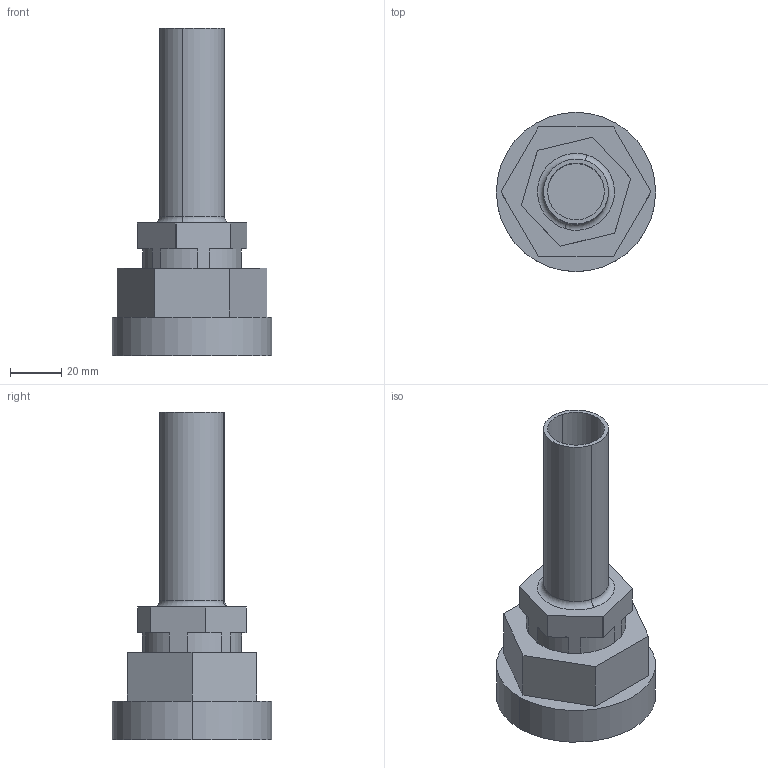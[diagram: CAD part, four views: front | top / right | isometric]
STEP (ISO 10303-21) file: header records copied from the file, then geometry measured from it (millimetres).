
FILE_DESCRIPTION (( 'STEP AP214' ), '1' );
FILE_NAME ('16-tube-out-top-out.STEP', '2012-12-03T22:17:27', ( '' ), ( '' ), 'SwSTEP 2.0', 'SolidWorks 2012', '' );
FILE_SCHEMA (( 'AUTOMOTIVE_DESIGN' ));
Length unit declared in the file: inch
Products named in the file (1): 16-tube-out-top-out
Bounding box: 62.33 x 62.33 x 128.17 mm (x, y, z)
Volume: 103064.5 mm3; surface area: 29227.4 mm2
Topology: 1 solids, 1 shells, 42 faces, 106 edges, 70 vertices
Faces by surface type: plane 24, cylinder 16, torus 2
Entity records: 1453 total; most frequent: DIRECTION 228, CARTESIAN_POINT 219, ORIENTED_EDGE 212, EDGE_CURVE 106, AXIS2_PLACEMENT_3D 79, VERTEX_POINT 70, VECTOR 70, LINE 70
